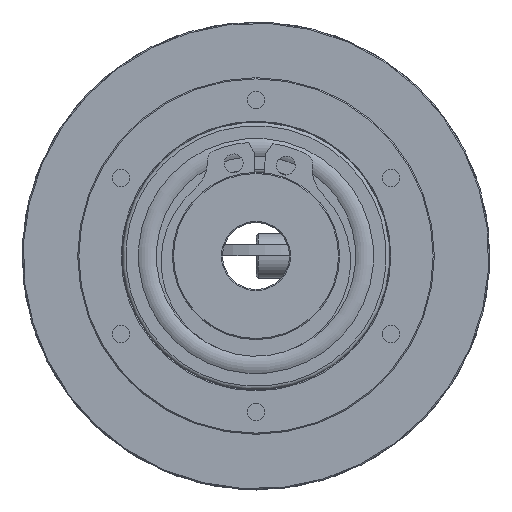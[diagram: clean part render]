
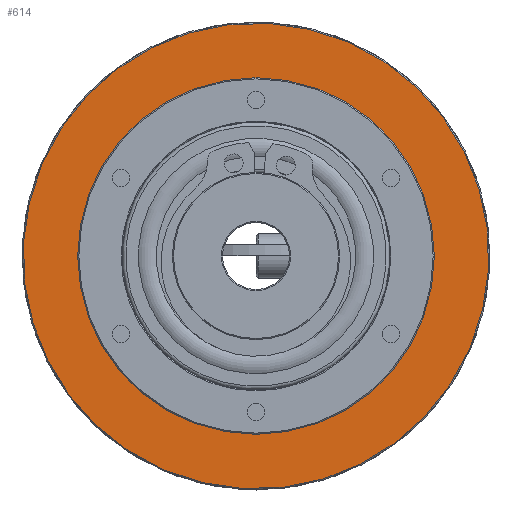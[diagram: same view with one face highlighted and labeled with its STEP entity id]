
A CAD part, left-side view. The second image highlights one B-rep face of the part: STEP entity #614.
In plain terms, the highlighted planar face has unit normal (-1, 0, 0) as drawn and (1, 0, 0) by its records, which use the part's own axes.
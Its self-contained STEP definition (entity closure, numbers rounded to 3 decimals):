
#614 = ADVANCED_FACE( '', ( #1029, #1030 ), #1031, .F. );
#1029 = FACE_OUTER_BOUND( '', #1393, .T. );
#1030 = FACE_BOUND( '', #1394, .T. );
#1031 = PLANE( '', #1395 );
#1393 = EDGE_LOOP( '', ( #2054 ) );
#1394 = EDGE_LOOP( '', ( #2055 ) );
#1395 = AXIS2_PLACEMENT_3D( '', #2056, #2057, #2058 );
#2054 = ORIENTED_EDGE( '', *, *, #2413, .T. );
#2055 = ORIENTED_EDGE( '', *, *, #2414, .T. );
#2056 = CARTESIAN_POINT( '', ( 0., 11., 0. ) );
#2057 = DIRECTION( '', ( -1., 0., 0. ) );
#2058 = DIRECTION( '', ( 0., 0., 1. ) );
#2413 = EDGE_CURVE( '', #2776, #2776, #2777, .T. );
#2414 = EDGE_CURVE( '', #2778, #2778, #2779, .T. );
#2776 = VERTEX_POINT( '', #3544 );
#2777 = CIRCLE( '', #3545, 20.9 );
#2778 = VERTEX_POINT( '', #3546 );
#2779 = CIRCLE( '', #3547, 11.1 );
#3544 = CARTESIAN_POINT( '', ( 0., 0., 20.9 ) );
#3545 = AXIS2_PLACEMENT_3D( '', #3926, #3927, #3928 );
#3546 = CARTESIAN_POINT( '', ( 0., 0., 11.1 ) );
#3547 = AXIS2_PLACEMENT_3D( '', #3929, #3930, #3931 );
#3926 = CARTESIAN_POINT( '', ( 0., 0., 0. ) );
#3927 = DIRECTION( '', ( 1., 0., 0. ) );
#3928 = DIRECTION( '', ( 0., 0., 1. ) );
#3929 = CARTESIAN_POINT( '', ( 0., 0., 0. ) );
#3930 = DIRECTION( '', ( -1., 0., 0. ) );
#3931 = DIRECTION( '', ( 0., 0., 1. ) );
